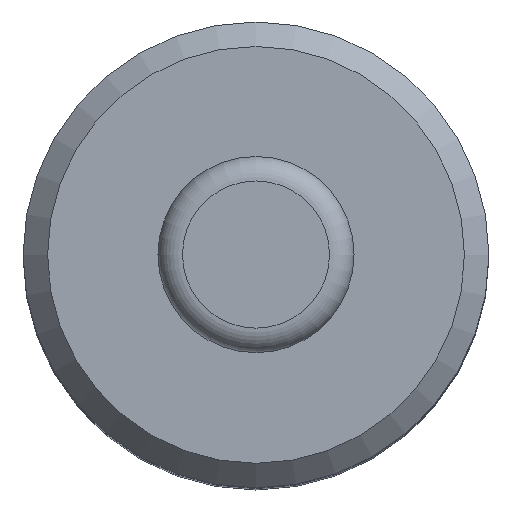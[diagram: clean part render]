
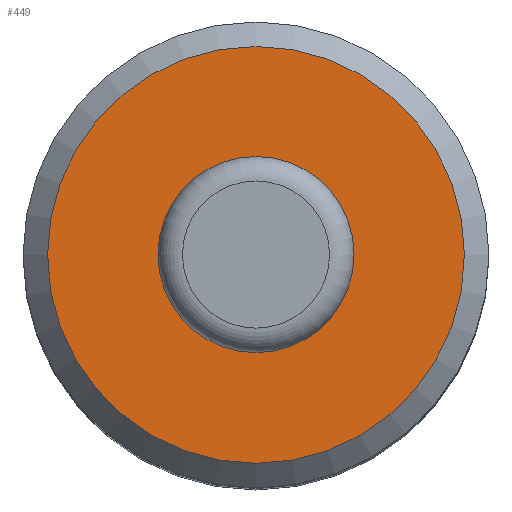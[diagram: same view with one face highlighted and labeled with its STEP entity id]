
A CAD part, top view. The second image highlights one B-rep face of the part: STEP entity #449.
In plain terms, the highlighted planar face has unit normal (0, 0, 1).
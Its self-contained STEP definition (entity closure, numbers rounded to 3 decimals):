
#429 = VERTEX_POINT('',#430);
#430 = CARTESIAN_POINT('',(8.5,0.,51.));
#438 = EDGE_CURVE('',#429,#429,#439,.T.);
#439 = CIRCLE('',#440,8.5);
#440 = AXIS2_PLACEMENT_3D('',#441,#442,#443);
#441 = CARTESIAN_POINT('',(0.,0.,51.));
#442 = DIRECTION('',(0.,0.,1.));
#443 = DIRECTION('',(1.,0.,0.));
#449 = ADVANCED_FACE('',(#450),#453,.T.);
#450 = FACE_BOUND('',#451,.T.);
#451 = EDGE_LOOP('',(#452));
#452 = ORIENTED_EDGE('',*,*,#438,.T.);
#453 = PLANE('',#454);
#454 = AXIS2_PLACEMENT_3D('',#455,#456,#457);
#455 = CARTESIAN_POINT('',(0.,0.,51.));
#456 = DIRECTION('',(0.,0.,1.));
#457 = DIRECTION('',(1.,0.,0.));
